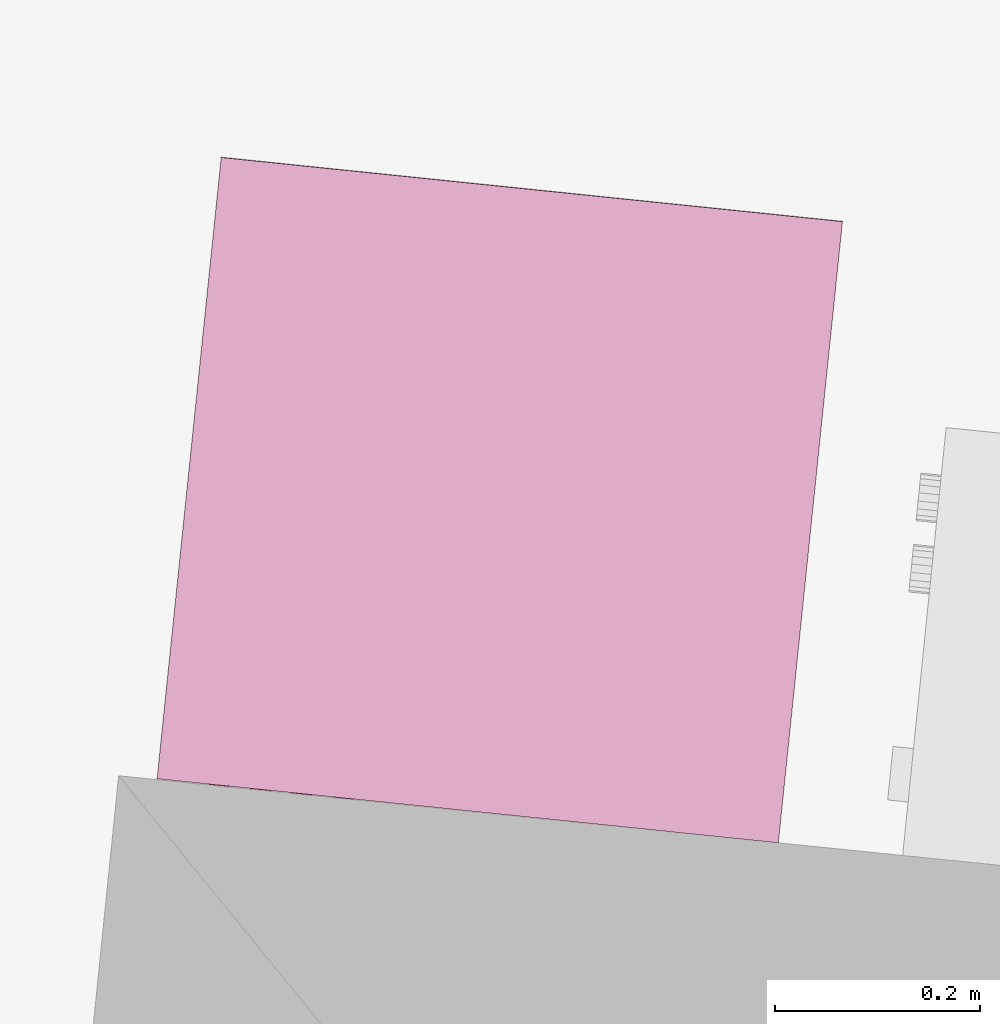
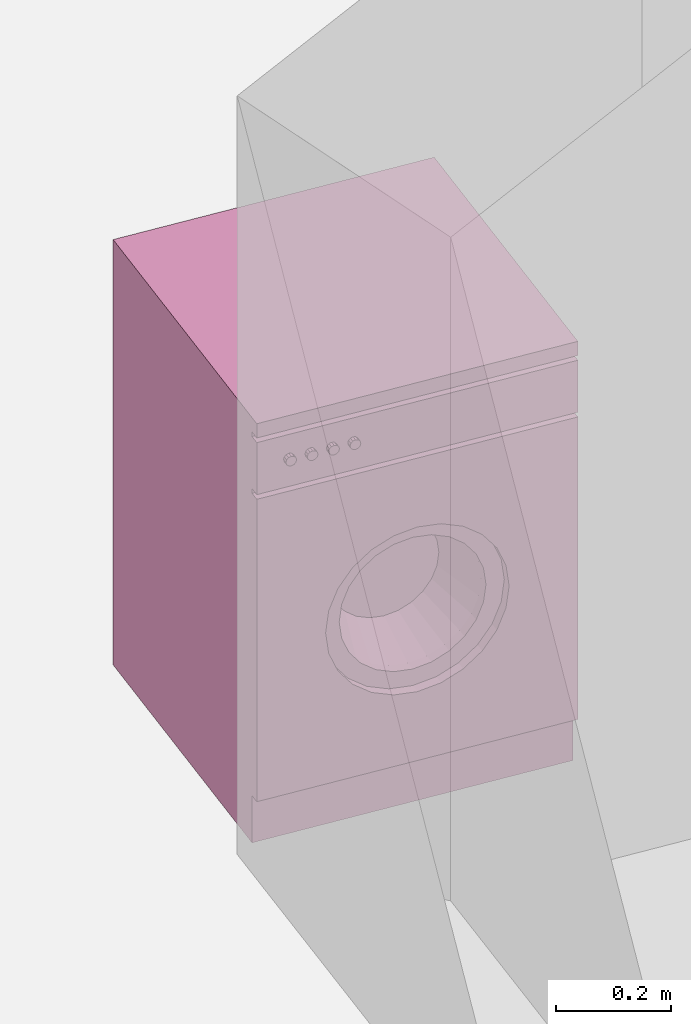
# One storey, part 140 of 171: 1 furnishing.
"""IFC2X3 building model written with IfcOpenShell, lengths in millimetres."""

import ifcopenshell
import ifcopenshell.guid

model = None  # the IFC model being written
_history = None  # IfcOwnerHistory: only IFC2X3 demands one
_inside = {}  # id of a spatial element -> (the spatial element, [elements in it])
_under = {}  # id of a project, library or spatial element -> (it, [spatial elements below it])
_declared = {}  # id of a project -> (the project, [libraries it declares])
_typed = {}  # id of a type object -> (the type object, [elements of that type])
_made_of = {}  # id of a material, layer set ... -> (it, [elements and type objects made of it])


def new_model(schema):
    """Start an empty IFC model of exactly this schema.

    Asked for "IFC4X3", IfcOpenShell would pick the latest addendum, in which some entities
    have other attributes; the version numbers below select the first issue.
    IFC2X3 requires an IfcOwnerHistory on every rooted entity: one is made here for all.
    """
    global model, _history
    if schema == "IFC4X3":
        model = ifcopenshell.file(schema_version=(4, 3, 0, 0))
    else:
        model = ifcopenshell.file(schema=schema)
    _inside.clear()
    _under.clear()
    _declared.clear()
    _typed.clear()
    _made_of.clear()
    _history = None
    if model.schema == "IFC2X3":
        org = make("IfcOrganization", Name="unknown")
        user = make(
            "IfcPersonAndOrganization",
            ThePerson=make("IfcPerson", FamilyName="unknown"),
            TheOrganization=org,
        )
        app = make(
            "IfcApplication",
            ApplicationDeveloper=org,
            Version="unknown",
            ApplicationFullName="unknown",
            ApplicationIdentifier="unknown",
        )
        _history = make(
            "IfcOwnerHistory",
            OwningUser=user,
            OwningApplication=app,
            ChangeAction="ADDED",
            CreationDate=0,
        )
    return model


def make(cls, **values):
    """One entity of the class cls with the attributes given. An attribute that is None is left unset."""
    return model.create_entity(
        cls, **{name: value for name, value in values.items() if value is not None}
    )


def entity(cls, *values):
    """Any entity or typed value of the class cls, its attributes in the order of the schema. None: left unset."""
    e = model.create_entity(cls)
    for i, value in enumerate(values):
        if value is not None:
            e[i] = value
    return e


def rooted(cls, **values):
    """An entity with a GlobalId (a new one), such as an element, a storey or a relation."""
    return make(cls, GlobalId=ifcopenshell.guid.new(), OwnerHistory=_history, **values)


def si_unit(unit_type, name, prefix=None):
    """IfcSIUnit, for example si_unit("LENGTHUNIT", "METRE", prefix="MILLI")."""
    return make("IfcSIUnit", UnitType=unit_type, Prefix=prefix, Name=name)


def converted_unit(unit_type, name, factor, base, dimensions=None, offset=None):
    """IfcConversionBasedUnit, such as the inch: factor (a typed value) times the base unit."""
    return make(
        "IfcConversionBasedUnit"
        if offset is None
        else "IfcConversionBasedUnitWithOffset",
        ConversionOffset=offset,
        Dimensions=None
        if dimensions is None
        else entity("IfcDimensionalExponents", *dimensions),
        UnitType=unit_type,
        Name=name,
        ConversionFactor=make(
            "IfcMeasureWithUnit", ValueComponent=factor, UnitComponent=base
        ),
    )


def derived_unit(unit_type, elements):
    """IfcDerivedUnit: a product of units, each with its exponent."""
    return make(
        "IfcDerivedUnit",
        Elements=[
            make("IfcDerivedUnitElement", Unit=unit, Exponent=power)
            for unit, power in elements
        ],
        UnitType=unit_type,
    )


def money_unit(currency):
    """IfcMonetaryUnit."""
    return make("IfcMonetaryUnit", Currency=currency)


def assignment(units):
    """IfcUnitAssignment: the units of a project."""
    return None if units is None else make("IfcUnitAssignment", Units=units)


def point(xyz):
    """IfcCartesianPoint."""
    return None if xyz is None else make("IfcCartesianPoint", Coordinates=xyz)


def direction(xyz):
    """IfcDirection."""
    return None if xyz is None else make("IfcDirection", DirectionRatios=xyz)


def frame(location, z_axis=None, x_axis=None):
    """IfcAxis2Placement3D, a coordinate frame: its origin and axes. An axis left out is left unset."""
    return make(
        "IfcAxis2Placement3D",
        Location=point(location),
        Axis=direction(z_axis),
        RefDirection=direction(x_axis),
    )


def origin_with_axes():
    """The frame at (0, 0, 0) with the z axis (0, 0, 1) and the x axis (1, 0, 0) written out."""
    return frame((0.0, 0.0, 0.0), z_axis=(0.0, 0.0, 1.0), x_axis=(1.0, 0.0, 0.0))


def place(relative_to, where):
    """IfcLocalPlacement: puts the frame where relative to a parent placement (None: the world)."""
    return make(
        "IfcLocalPlacement", PlacementRelTo=relative_to, RelativePlacement=where
    )


def context(
    kind, dimensions, precision=None, world=None, true_north=None, identifier=None
):
    """IfcGeometricRepresentationContext, for example the 3D "Model" context."""
    return make(
        "IfcGeometricRepresentationContext",
        ContextIdentifier=identifier,
        ContextType=kind,
        CoordinateSpaceDimension=dimensions,
        Precision=precision,
        WorldCoordinateSystem=world,
        TrueNorth=true_north,
    )


def subcontext(parent, identifier, kind, view, scale=None):
    """IfcGeometricRepresentationSubContext, for example "Body" below "Model"."""
    return make(
        "IfcGeometricRepresentationSubContext",
        ContextIdentifier=identifier,
        ContextType=kind,
        ParentContext=parent,
        TargetScale=scale,
        TargetView=view,
    )


def project(units=None, contexts=None):
    """IfcProject with its units and contexts."""
    return rooted(
        "IfcProject",
        Name="project",
        RepresentationContexts=contexts,
        UnitsInContext=assignment(units),
    )


def spatial(cls, under=None, at=None, **own):
    """A site, building, storey or space (cls), placed at a placement, below another one or the project."""
    s = rooted(cls, ObjectPlacement=at, **own)
    if under is not None:
        _under.setdefault(under.id(), (under, []))[1].append(s)
    return s


def faces_of(points, faces, orient=None, outer=None):
    """IfcFace entities. A face is a list of loops; a loop is a list of indices into points, from 0.

    orient and outer hold one flag for each loop. By default every Orientation is true, the
    first loop of a face is its IfcFaceOuterBound and the others are IfcFaceBound.
    """
    made = []
    for i, loops in enumerate(faces):
        bounds = []
        for j, loop in enumerate(loops):
            is_outer = j == 0 if outer is None else outer[i][j]
            bounds.append(
                make(
                    "IfcFaceOuterBound" if is_outer else "IfcFaceBound",
                    Bound=make("IfcPolyLoop", Polygon=[points[k] for k in loop]),
                    Orientation=True if orient is None else orient[i][j],
                )
            )
        made.append(make("IfcFace", Bounds=bounds))
    return made


def open_shell(faces, orient=None, outer=None):
    """The faces of one IfcOpenShell. surface_model builds it on its shared points."""
    return ("IfcOpenShell", faces, orient, outer)


def faceted_brep(points, faces, orient=None, outer=None, voids=None):
    """IfcFacetedBrep: a solid bounded by flat faces; with voids (closed shells), ...WithVoids."""
    shared = [point(p) for p in points]
    hull = make("IfcClosedShell", CfsFaces=faces_of(shared, faces, orient, outer))
    if voids is None:
        return make("IfcFacetedBrep", Outer=hull)
    return make(
        "IfcFacetedBrepWithVoids",
        Outer=hull,
        Voids=[
            make(cls, CfsFaces=faces_of(shared, fs, o, b)) for cls, fs, o, b in voids
        ],
    )


def surface_model(cls, points, shells):
    """IfcFaceBasedSurfaceModel or IfcShellBasedSurfaceModel (cls): surfaces that need not close."""
    shared = [point(p) for p in points]
    made = [make(c, CfsFaces=faces_of(shared, fs, o, b)) for c, fs, o, b in shells]
    if cls == "IfcFaceBasedSurfaceModel":
        return make(cls, FbsmFaces=made)
    return make(cls, SbsmBoundary=made)


def shape(context_of_items, identifier, shape_type, items):
    """IfcShapeRepresentation: the items that make up one representation, for example the "Body"."""
    return make(
        "IfcShapeRepresentation",
        ContextOfItems=context_of_items,
        RepresentationIdentifier=identifier,
        RepresentationType=shape_type,
        Items=items,
    )


def source(mapping_origin, context_of_items, identifier, shape_type, items):
    """IfcRepresentationMap: a shape defined once, which mapped items show again and again."""
    return make(
        "IfcRepresentationMap",
        MappingOrigin=mapping_origin,
        MappedRepresentation=shape(context_of_items, identifier, shape_type, items),
    )


def transform(
    local_origin,
    x_axis=None,
    y_axis=None,
    z_axis=None,
    scale=None,
    scale2=None,
    scale3=None,
    uniform=True,
):
    """IfcCartesianTransformationOperator3D, or its non-uniform kind. x_axis, y_axis, z_axis: its Axis1, 2, 3."""
    if uniform:
        return make(
            "IfcCartesianTransformationOperator3D",
            Axis1=direction(x_axis),
            Axis2=direction(y_axis),
            LocalOrigin=point(local_origin),
            Scale=scale,
            Axis3=direction(z_axis),
        )
    return make(
        "IfcCartesianTransformationOperator3DnonUniform",
        Axis1=direction(x_axis),
        Axis2=direction(y_axis),
        LocalOrigin=point(local_origin),
        Scale=scale,
        Axis3=direction(z_axis),
        Scale2=scale2,
        Scale3=scale3,
    )


def mapped(mapping_source, mapping_target):
    """IfcMappedItem: shows the shape of a source again, moved by a transform."""
    return make(
        "IfcMappedItem", MappingSource=mapping_source, MappingTarget=mapping_target
    )


def made_of(thing, what):
    """Note that an element or type object is made of a material, layer set ...; save() writes the relation."""
    if what is not None:
        _made_of.setdefault(what.id(), (what, []))[1].append(thing)
    return thing


def type_object(cls, material=None, **own):
    """A type object (cls), such as IfcWallType, which elements share."""
    return made_of(rooted(cls, **own), material)


def element(
    cls,
    number,
    at=None,
    inside=None,
    cuts=None,
    type_object=None,
    material=None,
    context=None,
    identifier="Body",
    shape_type=None,
    held_by="IfcProductDefinitionShape",
    body=None,
    shapes=None,
    **own,
):
    """One element of the class cls, such as IfcWall. Its Tag is "e" and its number.

    at: its placement. inside: the storey or other place that contains it. cuts: it is an
    opening in that element (IfcRelVoidsElement). A single representation is given by context,
    identifier, shape_type and body (its items); several are given by shapes. held_by: the class
    of the entity that holds the representations. save() writes the other relations.
    """
    e = rooted(cls, Tag="e%d" % number, ObjectPlacement=at, **own)
    if body is not None:
        shapes = [shape(context, identifier, shape_type, body)]
    if shapes is not None:
        e.Representation = make(held_by, Representations=shapes)
    if inside is not None:
        _inside.setdefault(inside.id(), (inside, []))[1].append(e)
    if cuts is not None:
        rooted(
            "IfcRelVoidsElement", RelatingBuildingElement=cuts, RelatedOpeningElement=e
        )
    if type_object is not None:
        _typed.setdefault(type_object.id(), (type_object, []))[1].append(e)
    return made_of(e, material)


def aggregate(whole, parts):
    """IfcRelAggregates: a whole, such as a stair, and the parts it consists of."""
    return rooted("IfcRelAggregates", RelatingObject=whole, RelatedObjects=parts)


def save(model, path):
    """Write the relations noted so far, then the file.

    IfcRelAggregates (storeys below a building ...), IfcRelContainedInSpatialStructure (elements
    in a storey), IfcRelDefinesByType, IfcRelAssociatesMaterial and IfcRelDeclares: one each for
    every whole, place, type object, material and project.
    """
    for whole, parts in _under.values():
        aggregate(whole, parts)
    for where, things in _inside.values():
        rooted(
            "IfcRelContainedInSpatialStructure",
            RelatedElements=things,
            RelatingStructure=where,
        )
    for kind, things in _typed.values():
        rooted("IfcRelDefinesByType", RelatedObjects=things, RelatingType=kind)
    for what, things in _made_of.values():
        rooted("IfcRelAssociatesMaterial", RelatedObjects=things, RelatingMaterial=what)
    for by, libraries in _declared.values():
        rooted("IfcRelDeclares", RelatingContext=by, RelatedDefinitions=libraries)
    model.write(path)


model = new_model("IFC2X3")

# Units and contexts
model_context = context("Model", 3, precision=0.01, world=origin_with_axes(), true_north=direction((0.0, 1.0)))
body_context = subcontext(model_context, "Body", "Model", "MODEL_VIEW")
ifc_project = project(units=[si_unit("LENGTHUNIT", "METRE", prefix="MILLI"), si_unit("AREAUNIT", "SQUARE_METRE"), si_unit("VOLUMEUNIT", "CUBIC_METRE"), converted_unit("PLANEANGLEUNIT", "DEGREE", entity("IfcPlaneAngleMeasure", 0.0174532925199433), si_unit("PLANEANGLEUNIT", "RADIAN"), dimensions=[0, 0, 0, 0, 0, 0, 0]), money_unit("USD"), converted_unit("TIMEUNIT", "Year", entity("IfcTimeMeasure", 31557600.0), si_unit("TIMEUNIT", "SECOND"), dimensions=[0, 0, 1, 0, 0, 0, 0]), si_unit("MASSUNIT", "GRAM", prefix="KILO"), si_unit("THERMODYNAMICTEMPERATUREUNIT", "DEGREE_CELSIUS"), si_unit("LUMINOUSINTENSITYUNIT", "LUMEN"), si_unit("ENERGYUNIT", "JOULE", prefix="MEGA"), derived_unit("THERMALCONDUCTANCEUNIT", [(si_unit("POWERUNIT", "WATT"), 1), (si_unit("LENGTHUNIT", "METRE"), -1), (si_unit("THERMODYNAMICTEMPERATUREUNIT", "KELVIN"), -1)]), derived_unit("SPECIFICHEATCAPACITYUNIT", [(si_unit("ENERGYUNIT", "JOULE"), 1), (si_unit("MASSUNIT", "GRAM", prefix="KILO"), -1), (si_unit("THERMODYNAMICTEMPERATUREUNIT", "KELVIN"), -1)]), derived_unit("MASSDENSITYUNIT", [(si_unit("MASSUNIT", "GRAM", prefix="KILO"), 1), (si_unit("VOLUMEUNIT", "CUBIC_METRE"), -1)])], contexts=[model_context])

# Site, building, storey
site_placement = place(None, origin_with_axes())
site = spatial("IfcSite", under=ifc_project, at=site_placement, Name="Site", CompositionType="ELEMENT")
building_placement = place(site_placement, origin_with_axes())
building = spatial("IfcBuilding", under=site, at=building_placement, Name="Bâtiment", CompositionType="ELEMENT")
storey_placement = place(building_placement, frame((0.0, 0.0, 3000.0), z_axis=(0.0, 0.0, 1.0), x_axis=(1.0, 0.0, 0.0)))
storey = spatial("IfcBuildingStorey", under=building, at=storey_placement, Name="rdc", CompositionType="ELEMENT", Elevation=3000.0)

# Furnishing
furnishing_element_type = type_object("IfcFurnishingElementType", Name="Machine à laver")
shared_shape = source(origin_with_axes(), body_context, "Body", "SurfaceModel", [
    faceted_brep([(0.0, 20.33333333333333, 100.0), (610.0, 20.33333333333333, 100.0), (610.0, 0.0, 100.0), (0.0, 0.0, 100.0), (0.0, 20.33333333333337, 740.0), (610.0, 20.33333333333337, 740.0), (479.2857142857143, 20.33333333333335, 420.0000000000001), (473.3470725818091, 20.33333333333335, 465.1084621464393), (455.935856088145, 20.33333333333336, 507.1428571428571), (428.2386104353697, 20.33333333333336, 543.2386104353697), (392.1428571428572, 20.33333333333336, 570.935856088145), (350.1084621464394, 20.33333333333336, 588.347072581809), (305.0000000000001, 20.33333333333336, 594.2857142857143), (259.8915378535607, 20.33333333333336, 588.347072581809), (217.8571428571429, 20.33333333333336, 570.9358560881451), (181.7613895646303, 20.33333333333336, 543.2386104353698), (154.0641439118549, 20.33333333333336, 507.1428571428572), (136.6529274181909, 20.33333333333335, 465.1084621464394), (130.7142857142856, 20.33333333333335, 420.0000000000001), (136.6529274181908, 20.33333333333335, 374.8915378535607), (154.0641439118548, 20.33333333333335, 332.8571428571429), (181.7613895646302, 20.33333333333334, 296.7613895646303), (217.8571428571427, 20.33333333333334, 269.064143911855), (259.8915378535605, 20.33333333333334, 251.6529274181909), (304.9999999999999, 20.33333333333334, 245.7142857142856), (350.1084621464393, 20.33333333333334, 251.6529274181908), (392.1428571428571, 20.33333333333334, 269.0641439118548), (428.2386104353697, 20.33333333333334, 296.7613895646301), (455.935856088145, 20.33333333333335, 332.8571428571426), (473.3470725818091, 20.33333333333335, 374.8915378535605), (610.0, 0.0, 740.0), (0.0, 0.0, 740.0), (479.2857142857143, 0.0, 420.0000000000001), (473.3470725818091, 0.0, 374.8915378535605), (455.935856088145, 0.0, 332.8571428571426), (428.2386104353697, 0.0, 296.7613895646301), (392.1428571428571, 0.0, 269.0641439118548), (350.1084621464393, 0.0, 251.6529274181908), (304.9999999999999, 0.0, 245.7142857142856), (259.8915378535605, 0.0, 251.6529274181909), (217.8571428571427, 0.0, 269.064143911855), (181.7613895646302, 0.0, 296.7613895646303), (154.0641439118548, 0.0, 332.8571428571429), (136.6529274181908, 0.0, 374.8915378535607), (130.7142857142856, 0.0, 420.0000000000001), (136.6529274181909, 0.0, 465.1084621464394), (154.0641439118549, 0.0, 507.1428571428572), (181.7613895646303, 0.0, 543.2386104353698), (217.8571428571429, 0.0, 570.9358560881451), (259.8915378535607, 0.0, 588.347072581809), (305.0000000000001, 0.0, 594.2857142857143), (350.1084621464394, 0.0, 588.347072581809), (392.1428571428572, 0.0, 570.935856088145), (428.2386104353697, 0.0, 543.2386104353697), (455.935856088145, 0.0, 507.1428571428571), (473.3470725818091, 0.0, 465.1084621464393)], [[[0, 1, 2, 3]], [[0, 4, 5, 1], [6, 7, 8, 9, 10, 11, 12, 13, 14, 15, 16, 17, 18, 19, 20, 21, 22, 23, 24, 25, 26, 27, 28, 29]], [[1, 5, 30, 2]], [[3, 2, 30, 31], [32, 33, 34, 35, 36, 37, 38, 39, 40, 41, 42, 43, 44, 45, 46, 47, 48, 49, 50, 51, 52, 53, 54, 55]], [[4, 0, 3, 31]], [[5, 4, 31, 30]], [[7, 6, 32, 55]], [[8, 7, 55, 54]], [[9, 8, 54, 53]], [[10, 9, 53, 52]], [[11, 10, 52, 51]], [[12, 11, 51, 50]], [[13, 12, 50, 49]], [[14, 13, 49, 48]], [[15, 14, 48, 47]], [[16, 15, 47, 46]], [[17, 16, 46, 45]], [[18, 17, 45, 44]], [[19, 18, 44, 43]], [[20, 19, 43, 42]], [[21, 20, 42, 41]], [[22, 21, 41, 40]], [[23, 22, 40, 39]], [[24, 23, 39, 38]], [[25, 24, 38, 37]], [[26, 25, 37, 36]], [[27, 26, 36, 35]], [[28, 27, 35, 34]], [[29, 28, 34, 33]], [[6, 29, 33, 32]]]),
    faceted_brep([(479.2857142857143, 40.66666666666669, 420.0000000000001), (473.3470725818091, 40.66666666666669, 465.1084621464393), (473.3470725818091, 20.33333333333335, 465.1084621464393), (479.2857142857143, 20.33333333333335, 420.0000000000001), (473.3470725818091, 40.66666666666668, 374.8915378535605), (455.935856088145, 40.66666666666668, 332.8571428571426), (428.2386104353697, 40.66666666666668, 296.7613895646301), (392.1428571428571, 40.66666666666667, 269.0641439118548), (350.1084621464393, 40.66666666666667, 251.6529274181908), (304.9999999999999, 40.66666666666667, 245.7142857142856), (259.8915378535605, 40.66666666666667, 251.6529274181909), (217.8571428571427, 40.66666666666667, 269.064143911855), (181.7613895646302, 40.66666666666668, 296.7613895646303), (154.0641439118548, 40.66666666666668, 332.8571428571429), (136.6529274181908, 40.66666666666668, 374.8915378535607), (130.7142857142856, 40.66666666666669, 420.0000000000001), (136.6529274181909, 40.66666666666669, 465.1084621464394), (154.0641439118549, 40.66666666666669, 507.1428571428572), (181.7613895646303, 40.66666666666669, 543.2386104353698), (217.8571428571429, 40.66666666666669, 570.9358560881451), (259.8915378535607, 40.66666666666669, 588.347072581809), (305.0000000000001, 40.66666666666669, 594.2857142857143), (350.1084621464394, 40.66666666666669, 588.347072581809), (392.1428571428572, 40.66666666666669, 570.935856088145), (428.2386104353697, 40.66666666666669, 543.2386104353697), (455.935856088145, 40.66666666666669, 507.1428571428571), (444.4285714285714, 40.66666666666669, 420.0000000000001), (439.6776580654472, 40.66666666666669, 456.0867697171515), (425.748684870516, 40.66666666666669, 489.7142857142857), (403.5908883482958, 40.66666666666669, 518.5908883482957), (374.7142857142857, 40.66666666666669, 540.748684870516), (341.0867697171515, 40.66666666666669, 554.6776580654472), (305.0000000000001, 40.66666666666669, 559.4285714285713), (268.9132302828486, 40.66666666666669, 554.6776580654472), (235.2857142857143, 40.66666666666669, 540.7486848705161), (206.4091116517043, 40.66666666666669, 518.5908883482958), (184.251315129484, 40.66666666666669, 489.7142857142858), (170.3223419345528, 40.66666666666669, 456.0867697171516), (165.5714285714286, 40.66666666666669, 420.0000000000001), (170.3223419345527, 40.66666666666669, 383.9132302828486), (184.2513151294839, 40.66666666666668, 350.2857142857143), (206.4091116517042, 40.66666666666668, 321.4091116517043), (235.2857142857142, 40.66666666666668, 299.251315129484), (268.9132302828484, 40.66666666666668, 285.3223419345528), (304.9999999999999, 40.66666666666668, 280.5714285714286), (341.0867697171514, 40.66666666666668, 285.3223419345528), (374.7142857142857, 40.66666666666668, 299.2513151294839), (403.5908883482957, 40.66666666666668, 321.4091116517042), (425.748684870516, 40.66666666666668, 350.2857142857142), (439.6776580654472, 40.66666666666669, 383.9132302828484), (455.935856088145, 20.33333333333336, 507.1428571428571), (428.2386104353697, 20.33333333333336, 543.2386104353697), (392.1428571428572, 20.33333333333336, 570.935856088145), (350.1084621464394, 20.33333333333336, 588.347072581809), (305.0000000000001, 20.33333333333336, 594.2857142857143), (259.8915378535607, 20.33333333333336, 588.347072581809), (217.8571428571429, 20.33333333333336, 570.9358560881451), (181.7613895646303, 20.33333333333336, 543.2386104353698), (154.0641439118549, 20.33333333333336, 507.1428571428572), (136.6529274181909, 20.33333333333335, 465.1084621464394), (130.7142857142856, 20.33333333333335, 420.0000000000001), (136.6529274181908, 20.33333333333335, 374.8915378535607), (154.0641439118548, 20.33333333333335, 332.8571428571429), (181.7613895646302, 20.33333333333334, 296.7613895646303), (217.8571428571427, 20.33333333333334, 269.064143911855), (259.8915378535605, 20.33333333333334, 251.6529274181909), (304.9999999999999, 20.33333333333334, 245.7142857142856), (350.1084621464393, 20.33333333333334, 251.6529274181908), (392.1428571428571, 20.33333333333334, 269.0641439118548), (428.2386104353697, 20.33333333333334, 296.7613895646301), (455.935856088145, 20.33333333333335, 332.8571428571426), (473.3470725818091, 20.33333333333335, 374.8915378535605), (444.4285714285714, 20.33333333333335, 420.0000000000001), (439.6776580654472, 20.33333333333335, 383.9132302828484), (425.748684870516, 20.33333333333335, 350.2857142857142), (403.5908883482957, 20.33333333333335, 321.4091116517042), (374.7142857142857, 20.33333333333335, 299.2513151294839), (341.0867697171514, 20.33333333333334, 285.3223419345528), (304.9999999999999, 20.33333333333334, 280.5714285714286), (268.9132302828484, 20.33333333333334, 285.3223419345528), (235.2857142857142, 20.33333333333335, 299.251315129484), (206.4091116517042, 20.33333333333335, 321.4091116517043), (184.2513151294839, 20.33333333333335, 350.2857142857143), (170.3223419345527, 20.33333333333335, 383.9132302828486), (165.5714285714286, 20.33333333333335, 420.0000000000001), (170.3223419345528, 20.33333333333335, 456.0867697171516), (184.251315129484, 20.33333333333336, 489.7142857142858), (206.4091116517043, 20.33333333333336, 518.5908883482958), (235.2857142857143, 20.33333333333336, 540.7486848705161), (268.9132302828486, 20.33333333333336, 554.6776580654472), (305.0000000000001, 20.33333333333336, 559.4285714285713), (341.0867697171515, 20.33333333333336, 554.6776580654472), (374.7142857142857, 20.33333333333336, 540.748684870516), (403.5908883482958, 20.33333333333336, 518.5908883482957), (425.748684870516, 20.33333333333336, 489.7142857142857), (439.6776580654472, 20.33333333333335, 456.0867697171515)], [[[0, 1, 2, 3]], [[0, 4, 5, 6, 7, 8, 9, 10, 11, 12, 13, 14, 15, 16, 17, 18, 19, 20, 21, 22, 23, 24, 25, 1], [26, 27, 28, 29, 30, 31, 32, 33, 34, 35, 36, 37, 38, 39, 40, 41, 42, 43, 44, 45, 46, 47, 48, 49]], [[1, 25, 50, 2]], [[3, 2, 50, 51, 52, 53, 54, 55, 56, 57, 58, 59, 60, 61, 62, 63, 64, 65, 66, 67, 68, 69, 70, 71], [72, 73, 74, 75, 76, 77, 78, 79, 80, 81, 82, 83, 84, 85, 86, 87, 88, 89, 90, 91, 92, 93, 94, 95]], [[4, 0, 3, 71]], [[5, 4, 71, 70]], [[6, 5, 70, 69]], [[7, 6, 69, 68]], [[8, 7, 68, 67]], [[9, 8, 67, 66]], [[10, 9, 66, 65]], [[11, 10, 65, 64]], [[12, 11, 64, 63]], [[13, 12, 63, 62]], [[14, 13, 62, 61]], [[15, 14, 61, 60]], [[16, 15, 60, 59]], [[17, 16, 59, 58]], [[18, 17, 58, 57]], [[19, 18, 57, 56]], [[20, 19, 56, 55]], [[21, 20, 55, 54]], [[22, 21, 54, 53]], [[23, 22, 53, 52]], [[24, 23, 52, 51]], [[25, 24, 51, 50]], [[27, 26, 72, 95]], [[28, 27, 95, 94]], [[29, 28, 94, 93]], [[30, 29, 93, 92]], [[31, 30, 92, 91]], [[32, 31, 91, 90]], [[33, 32, 90, 89]], [[34, 33, 89, 88]], [[35, 34, 88, 87]], [[36, 35, 87, 86]], [[37, 36, 86, 85]], [[38, 37, 85, 84]], [[39, 38, 84, 83]], [[40, 39, 83, 82]], [[41, 40, 82, 81]], [[42, 41, 81, 80]], [[43, 42, 80, 79]], [[44, 43, 79, 78]], [[45, 44, 78, 77]], [[46, 45, 77, 76]], [[47, 46, 76, 75]], [[48, 47, 75, 74]], [[49, 48, 74, 73]], [[26, 49, 73, 72]]]),
    surface_model("IfcShellBasedSurfaceModel", [(268.9132302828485, 40.6666666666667, 554.6776580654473), (305.0, 40.6666666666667, 559.4285714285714), (305.0, 142.3333333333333, 524.5714285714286), (277.9349227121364, 142.3333333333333, 521.0082435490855), (341.0867697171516, 40.6666666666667, 554.6776580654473), (332.0650772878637, 142.3333333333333, 521.0082435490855), (357.2857142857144, 142.3333333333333, 510.5615136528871), (378.9431662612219, 142.3333333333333, 493.9431662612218), (395.5615136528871, 142.3333333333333, 472.2857142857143), (406.0082435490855, 142.3333333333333, 447.0650772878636), (409.5714285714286, 142.3333333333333, 420.0), (406.0082435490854, 142.3333333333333, 392.9349227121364), (395.561513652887, 142.3333333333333, 367.7142857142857), (378.9431662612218, 142.3333333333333, 346.0568337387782), (357.2857142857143, 142.3333333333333, 329.438486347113), (332.0650772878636, 142.3333333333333, 318.9917564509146), (304.9999999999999, 142.3333333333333, 315.4285714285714), (277.9349227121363, 142.3333333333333, 318.9917564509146), (252.7142857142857, 142.3333333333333, 329.438486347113), (231.0568337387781, 142.3333333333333, 346.0568337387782), (214.4384863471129, 142.3333333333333, 367.7142857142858), (203.9917564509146, 142.3333333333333, 392.9349227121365), (200.4285714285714, 142.3333333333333, 420.0000000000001), (203.9917564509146, 142.3333333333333, 447.0650772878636), (214.438486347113, 142.3333333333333, 472.2857142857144), (231.0568337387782, 142.3333333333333, 493.9431662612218), (252.7142857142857, 142.3333333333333, 510.5615136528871), (235.2857142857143, 40.6666666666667, 540.7486848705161), (374.7142857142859, 40.6666666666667, 540.7486848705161), (403.5908883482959, 40.66666666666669, 518.5908883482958), (425.7486848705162, 40.66666666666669, 489.7142857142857), (439.6776580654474, 40.66666666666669, 456.0867697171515), (444.4285714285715, 40.66666666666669, 419.9999999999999), (439.6776580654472, 40.66666666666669, 383.9132302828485), (425.748684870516, 40.66666666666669, 350.2857142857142), (403.5908883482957, 40.66666666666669, 321.4091116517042), (374.7142857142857, 40.66666666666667, 299.2513151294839), (341.0867697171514, 40.66666666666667, 285.3223419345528), (304.9999999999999, 40.66666666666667, 280.5714285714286), (268.9132302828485, 40.66666666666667, 285.3223419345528), (235.2857142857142, 40.66666666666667, 299.251315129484), (206.4091116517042, 40.66666666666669, 321.4091116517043), (184.2513151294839, 40.66666666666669, 350.2857142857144), (170.3223419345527, 40.66666666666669, 383.9132302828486), (165.5714285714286, 40.66666666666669, 420.0000000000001), (170.3223419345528, 40.66666666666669, 456.0867697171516), (184.251315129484, 40.66666666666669, 489.7142857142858), (206.4091116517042, 40.66666666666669, 518.5908883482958)], [open_shell([[[0, 1, 2, 3]], [[1, 4, 5, 2]], [[2, 5, 6, 7, 8, 9, 10, 11, 12, 13, 14, 15, 16, 17, 18, 19, 20, 21, 22, 23, 24, 25, 26, 3]], [[27, 0, 3, 26]], [[4, 28, 6, 5]], [[28, 29, 7, 6]], [[29, 30, 8, 7]], [[30, 31, 9, 8]], [[31, 32, 10, 9]], [[32, 33, 11, 10]], [[33, 34, 12, 11]], [[34, 35, 13, 12]], [[35, 36, 14, 13]], [[36, 37, 15, 14]], [[37, 38, 16, 15]], [[38, 39, 17, 16]], [[39, 40, 18, 17]], [[40, 41, 19, 18]], [[41, 42, 20, 19]], [[42, 43, 21, 20]], [[43, 44, 22, 21]], [[44, 45, 23, 22]], [[45, 46, 24, 23]], [[46, 47, 25, 24]], [[47, 27, 26, 25]]])]),
    surface_model("IfcShellBasedSurfaceModel", [(0.0, 20.33333333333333, 100.0), (0.0, 20.33333333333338, 870.0), (0.0, 610.0, 870.0), (0.0, 610.0, 99.99999999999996)], [open_shell([[[0, 1, 2, 3]]])]),
    surface_model("IfcShellBasedSurfaceModel", [(610.0, 20.33333333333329, 100.0), (610.0, 20.33333333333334, 870.0), (610.0, 610.0, 870.0), (610.0, 610.0, 99.99999999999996)], [open_shell([[[0, 1, 2, 3]]])]),
    surface_model("IfcShellBasedSurfaceModel", [(0.0, 610.0, 100.0), (0.0, 610.0, 870.0), (610.0, 610.0, 870.0), (610.0, 610.0, 100.0)], [open_shell([[[0, 1, 2, 3]]])]),
    faceted_brep([(0.0, 20.33333333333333, 0.0), (610.0, 20.33333333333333, 0.0), (610.0, 20.33333333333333, 100.0), (0.0, 20.33333333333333, 100.0), (0.0, 610.3333333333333, 0.0), (610.0, 610.3333333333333, 0.0), (610.0, 610.3333333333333, 100.0), (0.0, 610.3333333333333, 100.0)], [[[0, 1, 2, 3]], [[0, 4, 5, 1]], [[1, 5, 6, 2]], [[3, 2, 6, 7]], [[4, 0, 3, 7]], [[5, 4, 7, 6]]]),
    faceted_brep([(0.0, 20.33333333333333, 750.0), (610.0, 20.33333333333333, 750.0), (610.0, 0.0, 750.0), (0.0, 0.0, 750.0), (0.0, 20.33333333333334, 860.0), (610.0, 20.33333333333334, 860.0), (610.0, 0.0, 860.0), (0.0, 0.0, 860.0)], [[[0, 1, 2, 3]], [[0, 4, 5, 1]], [[1, 5, 6, 2]], [[3, 2, 6, 7]], [[4, 0, 3, 7]], [[5, 4, 7, 6]]]),
    surface_model("IfcShellBasedSurfaceModel", [(0.0, 20.33333333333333, 739.8333333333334), (0.0, 20.33333333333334, 869.8333333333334), (610.0, 20.33333333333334, 869.8333333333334), (610.0, 20.33333333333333, 739.8333333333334)], [open_shell([[[0, 1, 2, 3]]])]),
    faceted_brep([(0.0, 0.0, 870.0), (610.0, 0.0, 870.0), (610.0, 0.0, 900.0), (0.0, 0.0, 900.0), (0.0, 610.0, 870.0), (610.0, 610.0, 870.0), (610.0, 610.0, 900.0), (0.0, 610.0, 900.0)], [[[0, 1, 2, 3]], [[0, 4, 5, 1]], [[1, 5, 6, 2]], [[3, 2, 6, 7]], [[4, 0, 3, 7]], [[5, 4, 7, 6]]]),
    faceted_brep([(69.80459160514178, 0.0, 804.9166666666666), (66.08333333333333, 0.0, 801.1954083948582), (60.99999999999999, 0.0, 799.8333333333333), (55.91666666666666, 0.0, 801.1954083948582), (52.1954083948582, 0.0, 804.9166666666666), (50.83333333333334, 0.0, 809.9999999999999), (52.19540839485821, 0.0, 815.0833333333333), (55.91666666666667, 0.0, 818.8045916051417), (61.0, 0.0, 820.1666666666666), (66.08333333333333, 0.0, 818.8045916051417), (69.8045916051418, 0.0, 815.0833333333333), (71.16666666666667, 0.0, 809.9999999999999), (69.80459160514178, -10.16666666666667, 804.9166666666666), (66.08333333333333, -10.16666666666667, 801.1954083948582), (60.99999999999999, -10.16666666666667, 799.8333333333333), (55.91666666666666, -10.16666666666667, 801.1954083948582), (52.1954083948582, -10.16666666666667, 804.9166666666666), (50.83333333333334, -10.16666666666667, 809.9999999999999), (52.19540839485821, -10.16666666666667, 815.0833333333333), (55.91666666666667, -10.16666666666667, 818.8045916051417), (61.0, -10.16666666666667, 820.1666666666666), (66.08333333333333, -10.16666666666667, 818.8045916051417), (69.8045916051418, -10.16666666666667, 815.0833333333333), (71.16666666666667, -10.16666666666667, 809.9999999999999)], [[[0, 1, 2, 3, 4, 5, 6, 7, 8, 9, 10, 11]], [[1, 0, 12, 13]], [[2, 1, 13, 14]], [[3, 2, 14, 15]], [[4, 3, 15, 16]], [[5, 4, 16, 17]], [[6, 5, 17, 18]], [[7, 6, 18, 19]], [[8, 7, 19, 20]], [[9, 8, 20, 21]], [[10, 9, 21, 22]], [[11, 10, 22, 23]], [[0, 11, 23, 12]], [[12, 23, 22, 21, 20, 19, 18, 17, 16, 15, 14, 13]]]),
    faceted_brep([(110.4712582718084, 0.0, 804.9166666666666), (106.75, 0.0, 801.1954083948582), (101.6666666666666, 0.0, 799.8333333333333), (96.58333333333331, 0.0, 801.1954083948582), (92.86207506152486, 0.0, 804.9166666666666), (91.49999999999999, 0.0, 809.9999999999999), (92.86207506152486, 0.0, 815.0833333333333), (96.58333333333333, 0.0, 818.8045916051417), (101.6666666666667, 0.0, 820.1666666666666), (106.75, 0.0, 818.8045916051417), (110.4712582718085, 0.0, 815.0833333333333), (111.8333333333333, 0.0, 809.9999999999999), (110.4712582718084, -10.16666666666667, 804.9166666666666), (106.75, -10.16666666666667, 801.1954083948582), (101.6666666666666, -10.16666666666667, 799.8333333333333), (96.58333333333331, -10.16666666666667, 801.1954083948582), (92.86207506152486, -10.16666666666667, 804.9166666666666), (91.49999999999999, -10.16666666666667, 809.9999999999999), (92.86207506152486, -10.16666666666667, 815.0833333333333), (96.58333333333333, -10.16666666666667, 818.8045916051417), (101.6666666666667, -10.16666666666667, 820.1666666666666), (106.75, -10.16666666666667, 818.8045916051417), (110.4712582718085, -10.16666666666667, 815.0833333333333), (111.8333333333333, -10.16666666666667, 809.9999999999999)], [[[0, 1, 2, 3, 4, 5, 6, 7, 8, 9, 10, 11]], [[1, 0, 12, 13]], [[2, 1, 13, 14]], [[3, 2, 14, 15]], [[4, 3, 15, 16]], [[5, 4, 16, 17]], [[6, 5, 17, 18]], [[7, 6, 18, 19]], [[8, 7, 19, 20]], [[9, 8, 20, 21]], [[10, 9, 21, 22]], [[11, 10, 22, 23]], [[0, 11, 23, 12]], [[12, 23, 22, 21, 20, 19, 18, 17, 16, 15, 14, 13]]]),
    faceted_brep([(151.1379249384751, 0.0, 804.9166666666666), (147.4166666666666, 0.0, 801.1954083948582), (142.3333333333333, 0.0, 799.8333333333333), (137.25, 0.0, 801.1954083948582), (133.5287417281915, 0.0, 804.9166666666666), (132.1666666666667, 0.0, 809.9999999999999), (133.5287417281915, 0.0, 815.0833333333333), (137.25, 0.0, 818.8045916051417), (142.3333333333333, 0.0, 820.1666666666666), (147.4166666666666, 0.0, 818.8045916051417), (151.1379249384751, 0.0, 815.0833333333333), (152.5, 0.0, 809.9999999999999), (151.1379249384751, -10.16666666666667, 804.9166666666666), (147.4166666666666, -10.16666666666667, 801.1954083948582), (142.3333333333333, -10.16666666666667, 799.8333333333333), (137.25, -10.16666666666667, 801.1954083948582), (133.5287417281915, -10.16666666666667, 804.9166666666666), (132.1666666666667, -10.16666666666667, 809.9999999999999), (133.5287417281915, -10.16666666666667, 815.0833333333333), (137.25, -10.16666666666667, 818.8045916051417), (142.3333333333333, -10.16666666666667, 820.1666666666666), (147.4166666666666, -10.16666666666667, 818.8045916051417), (151.1379249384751, -10.16666666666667, 815.0833333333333), (152.5, -10.16666666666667, 809.9999999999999)], [[[0, 1, 2, 3, 4, 5, 6, 7, 8, 9, 10, 11]], [[1, 0, 12, 13]], [[2, 1, 13, 14]], [[3, 2, 14, 15]], [[4, 3, 15, 16]], [[5, 4, 16, 17]], [[6, 5, 17, 18]], [[7, 6, 18, 19]], [[8, 7, 19, 20]], [[9, 8, 20, 21]], [[10, 9, 21, 22]], [[11, 10, 22, 23]], [[0, 11, 23, 12]], [[12, 23, 22, 21, 20, 19, 18, 17, 16, 15, 14, 13]]]),
    faceted_brep([(191.8045916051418, 0.0, 804.9166666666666), (188.0833333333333, 0.0, 801.1954083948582), (183.0, 0.0, 799.8333333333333), (177.9166666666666, 0.0, 801.1954083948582), (174.1954083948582, 0.0, 804.9166666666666), (172.8333333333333, 0.0, 809.9999999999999), (174.1954083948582, 0.0, 815.0833333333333), (177.9166666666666, 0.0, 818.8045916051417), (183.0, 0.0, 820.1666666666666), (188.0833333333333, 0.0, 818.8045916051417), (191.8045916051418, 0.0, 815.0833333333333), (193.1666666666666, 0.0, 809.9999999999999), (191.8045916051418, -10.16666666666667, 804.9166666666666), (188.0833333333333, -10.16666666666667, 801.1954083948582), (183.0, -10.16666666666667, 799.8333333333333), (177.9166666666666, -10.16666666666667, 801.1954083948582), (174.1954083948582, -10.16666666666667, 804.9166666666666), (172.8333333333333, -10.16666666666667, 809.9999999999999), (174.1954083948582, -10.16666666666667, 815.0833333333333), (177.9166666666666, -10.16666666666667, 818.8045916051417), (183.0, -10.16666666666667, 820.1666666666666), (188.0833333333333, -10.16666666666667, 818.8045916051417), (191.8045916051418, -10.16666666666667, 815.0833333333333), (193.1666666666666, -10.16666666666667, 809.9999999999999)], [[[0, 1, 2, 3, 4, 5, 6, 7, 8, 9, 10, 11]], [[1, 0, 12, 13]], [[2, 1, 13, 14]], [[3, 2, 14, 15]], [[4, 3, 15, 16]], [[5, 4, 16, 17]], [[6, 5, 17, 18]], [[7, 6, 18, 19]], [[8, 7, 19, 20]], [[9, 8, 20, 21]], [[10, 9, 21, 22]], [[11, 10, 22, 23]], [[0, 11, 23, 12]], [[12, 23, 22, 21, 20, 19, 18, 17, 16, 15, 14, 13]]]),
])
furnishing_placement = place(storey_placement, frame((2224177.197876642, -607825.1159081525, 0.0), z_axis=(0.0, 0.0, 1.0), x_axis=(0.9947181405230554, -0.1026441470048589, 0.0)))
element("IfcFurnishingElement", 1, at=furnishing_placement, inside=storey, type_object=furnishing_element_type, Name="Obj.-003", context=body_context, shape_type="MappedRepresentation", body=[
    mapped(shared_shape, transform((0.0, 0.0, 0.0))),
])

save(model, "model.ifc")
